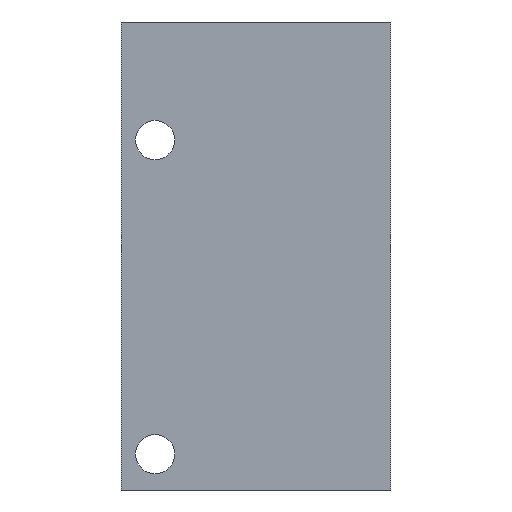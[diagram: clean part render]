
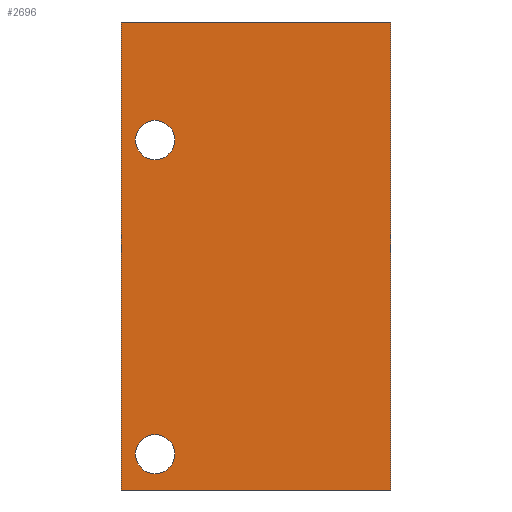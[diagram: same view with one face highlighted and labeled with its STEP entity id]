
A CAD part, front view. The second image highlights one B-rep face of the part: STEP entity #2696.
In plain terms, the highlighted planar face has unit normal (0, -1, 0).
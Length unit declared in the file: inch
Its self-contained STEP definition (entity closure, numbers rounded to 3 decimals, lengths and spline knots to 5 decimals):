
#201=LINE('',#4020,#401);
#337=LINE('',#4599,#537);
#341=LINE('',#4749,#541);
#343=LINE('',#4760,#543);
#401=VECTOR('',#3085,2.608);
#537=VECTOR('',#3317,2.608);
#541=VECTOR('',#3375,1.5);
#543=VECTOR('',#3389,1.5);
#750=PLANE('',#2877);
#832=FACE_BOUND('',#1198,.T.);
#833=FACE_BOUND('',#1199,.T.);
#834=FACE_BOUND('',#1200,.T.);
#1198=EDGE_LOOP('',(#2470));
#1199=EDGE_LOOP('',(#2471));
#1200=EDGE_LOOP('',(#2472,#2473,#2474,#2475));
#1291=CIRCLE('',#2835,0.10938);
#1293=CIRCLE('',#2838,0.10938);
#1407=VERTEX_POINT('',#4013);
#1410=VERTEX_POINT('',#4018);
#1520=VERTEX_POINT('',#4596);
#1521=VERTEX_POINT('',#4598);
#1528=VERTEX_POINT('',#4618);
#1530=VERTEX_POINT('',#4623);
#1676=EDGE_CURVE('',#1410,#1407,#201,.T.);
#1840=EDGE_CURVE('',#1521,#1520,#337,.T.);
#1848=EDGE_CURVE('',#1528,#1528,#1291,.T.);
#1850=EDGE_CURVE('',#1530,#1530,#1293,.T.);
#1860=EDGE_CURVE('',#1521,#1410,#341,.T.);
#1865=EDGE_CURVE('',#1520,#1407,#343,.T.);
#2470=ORIENTED_EDGE('',*,*,#1848,.T.);
#2471=ORIENTED_EDGE('',*,*,#1850,.T.);
#2472=ORIENTED_EDGE('',*,*,#1865,.T.);
#2473=ORIENTED_EDGE('',*,*,#1676,.F.);
#2474=ORIENTED_EDGE('',*,*,#1860,.F.);
#2475=ORIENTED_EDGE('',*,*,#1840,.T.);
#2696=ADVANCED_FACE('',(#832,#833,#834),#750,.T.);
#2835=AXIS2_PLACEMENT_3D('',#4619,#3340,#3341);
#2838=AXIS2_PLACEMENT_3D('',#4624,#3346,#3347);
#2877=AXIS2_PLACEMENT_3D('',#4788,#3428,#3429);
#3085=DIRECTION('',(0.,0.,1.));
#3317=DIRECTION('',(0.,0.,1.));
#3340=DIRECTION('center_axis',(0.,1.,0.));
#3341=DIRECTION('ref_axis',(1.,0.,0.));
#3346=DIRECTION('center_axis',(0.,1.,0.));
#3347=DIRECTION('ref_axis',(1.,0.,0.));
#3375=DIRECTION('',(-1.,0.,0.));
#3389=DIRECTION('',(-1.,0.,0.));
#3428=DIRECTION('center_axis',(0.,-1.,0.));
#3429=DIRECTION('ref_axis',(0.,0.,-1.));
#4013=CARTESIAN_POINT('',(-0.75,-0.5,2.608));
#4018=CARTESIAN_POINT('',(-0.75,-0.5,0.));
#4020=CARTESIAN_POINT('',(-0.75,-0.5,0.));
#4596=CARTESIAN_POINT('',(0.75,-0.5,2.608));
#4598=CARTESIAN_POINT('',(0.75,-0.5,0.));
#4599=CARTESIAN_POINT('',(0.75,-0.5,0.));
#4618=CARTESIAN_POINT('',(-0.45313,-0.5,0.2));
#4619=CARTESIAN_POINT('Origin',(-0.5625,-0.5,0.2));
#4623=CARTESIAN_POINT('',(-0.45313,-0.5,1.95));
#4624=CARTESIAN_POINT('Origin',(-0.5625,-0.5,1.95));
#4749=CARTESIAN_POINT('',(0.75,-0.5,0.));
#4760=CARTESIAN_POINT('',(0.75,-0.5,2.608));
#4788=CARTESIAN_POINT('Origin',(0.75,-0.5,0.));
